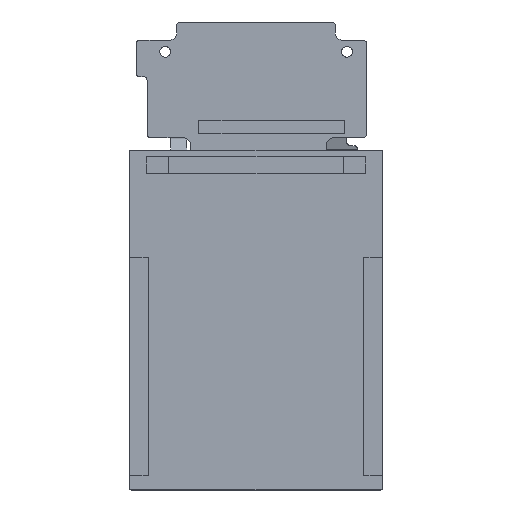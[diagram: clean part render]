
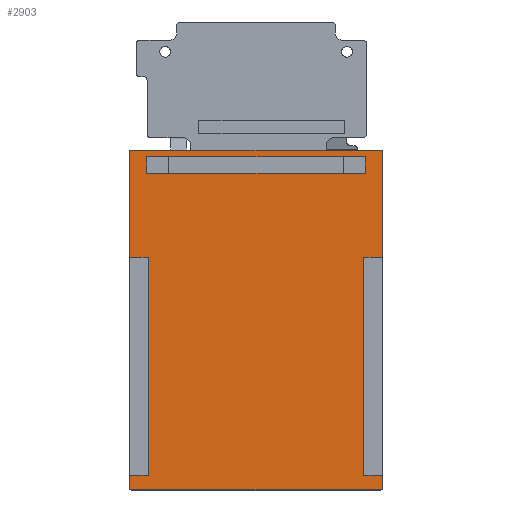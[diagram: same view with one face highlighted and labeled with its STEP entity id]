
A CAD part, front view. The second image highlights one B-rep face of the part: STEP entity #2903.
In plain terms, the highlighted planar face has unit normal (0, -1, 0).
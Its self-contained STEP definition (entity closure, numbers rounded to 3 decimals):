
#97 = CARTESIAN_POINT ( 'NONE',  ( 0., 0., 0. ) ) ;
#151 = CARTESIAN_POINT ( 'NONE',  ( 0., 0., -3.2 ) ) ;
#198 = EDGE_CURVE ( 'NONE', #3678, #1502, #705, .T. ) ;
#261 = VECTOR ( 'NONE', #328, 1000. ) ;
#280 = VECTOR ( 'NONE', #3606, 1000. ) ;
#290 = ORIENTED_EDGE ( 'NONE', *, *, #3371, .F. ) ;
#298 = VECTOR ( 'NONE', #2325, 1000. ) ;
#318 = CARTESIAN_POINT ( 'NONE',  ( 0., 0., -14.75 ) ) ;
#321 = LINE ( 'NONE', #2762, #1769 ) ;
#328 = DIRECTION ( 'NONE',  ( 0., 0., 1. ) ) ;
#365 = DIRECTION ( 'NONE',  ( 0., 0., -1. ) ) ;
#367 = VECTOR ( 'NONE', #3455, 1000. ) ;
#420 = CARTESIAN_POINT ( 'NONE',  ( 34.7, 0., -44.75 ) ) ;
#474 = CARTESIAN_POINT ( 'NONE',  ( 34.7, 0., 0. ) ) ;
#505 = VERTEX_POINT ( 'NONE', #2191 ) ;
#510 = VERTEX_POINT ( 'NONE', #1879 ) ;
#540 = LINE ( 'NONE', #3176, #2185 ) ;
#583 = FACE_OUTER_BOUND ( 'NONE', #2053, .T. ) ;
#586 = LINE ( 'NONE', #474, #2230 ) ;
#598 = ORIENTED_EDGE ( 'NONE', *, *, #1374, .F. ) ;
#608 = LINE ( 'NONE', #151, #2166 ) ;
#693 = EDGE_CURVE ( 'NONE', #3399, #1044, #608, .T. ) ;
#696 = DIRECTION ( 'NONE',  ( 0., 1., 0. ) ) ;
#698 = VERTEX_POINT ( 'NONE', #1677 ) ;
#705 = LINE ( 'NONE', #2510, #3184 ) ;
#715 = VECTOR ( 'NONE', #1219, 1000. ) ;
#726 = LINE ( 'NONE', #2103, #1559 ) ;
#815 = CARTESIAN_POINT ( 'NONE',  ( 0., 0., 0. ) ) ;
#953 = ORIENTED_EDGE ( 'NONE', *, *, #3952, .F. ) ;
#956 = DIRECTION ( 'NONE',  ( -1., 0., 0. ) ) ;
#957 = ORIENTED_EDGE ( 'NONE', *, *, #1064, .F. ) ;
#970 = VERTEX_POINT ( 'NONE', #2907 ) ;
#1044 = VERTEX_POINT ( 'NONE', #1385 ) ;
#1064 = EDGE_CURVE ( 'NONE', #1598, #3399, #2611, .T. ) ;
#1102 = CARTESIAN_POINT ( 'NONE',  ( 0., 0., -44.75 ) ) ;
#1109 = LINE ( 'NONE', #3564, #298 ) ;
#1126 = CARTESIAN_POINT ( 'NONE',  ( 0., 0., -0.9 ) ) ;
#1160 = CARTESIAN_POINT ( 'NONE',  ( 0., 0., -46.75 ) ) ;
#1186 = DIRECTION ( 'NONE',  ( 0., 0., -1. ) ) ;
#1219 = DIRECTION ( 'NONE',  ( 0., 0., 1. ) ) ;
#1220 = ORIENTED_EDGE ( 'NONE', *, *, #3850, .F. ) ;
#1264 = EDGE_CURVE ( 'NONE', #2173, #1598, #2653, .T. ) ;
#1319 = DIRECTION ( 'NONE',  ( 1., 0., 0. ) ) ;
#1325 = VECTOR ( 'NONE', #1469, 1000. ) ;
#1374 = EDGE_CURVE ( 'NONE', #510, #3678, #3914, .T. ) ;
#1385 = CARTESIAN_POINT ( 'NONE',  ( 32.37, 0., -3.2 ) ) ;
#1388 = ORIENTED_EDGE ( 'NONE', *, *, #198, .F. ) ;
#1392 = ORIENTED_EDGE ( 'NONE', *, *, #1264, .F. ) ;
#1415 = DIRECTION ( 'NONE',  ( 1., 0., 0. ) ) ;
#1434 = VECTOR ( 'NONE', #1797, 1000. ) ;
#1469 = DIRECTION ( 'NONE',  ( -1., 0., 0. ) ) ;
#1495 = CARTESIAN_POINT ( 'NONE',  ( 32.37, 0., -0.9 ) ) ;
#1502 = VERTEX_POINT ( 'NONE', #318 ) ;
#1527 = ORIENTED_EDGE ( 'NONE', *, *, #693, .F. ) ;
#1559 = VECTOR ( 'NONE', #1186, 1000. ) ;
#1579 = CARTESIAN_POINT ( 'NONE',  ( 0., 0., -44.75 ) ) ;
#1583 = VERTEX_POINT ( 'NONE', #1579 ) ;
#1587 = ORIENTED_EDGE ( 'NONE', *, *, #2254, .F. ) ;
#1598 = VERTEX_POINT ( 'NONE', #2507 ) ;
#1656 = EDGE_CURVE ( 'NONE', #698, #2019, #2299, .T. ) ;
#1673 = VECTOR ( 'NONE', #3252, 1000. ) ;
#1677 = CARTESIAN_POINT ( 'NONE',  ( 32.2, 0., -44.75 ) ) ;
#1711 = CARTESIAN_POINT ( 'NONE',  ( 2.33, 0., -3.2 ) ) ;
#1742 = EDGE_CURVE ( 'NONE', #2791, #3861, #2977, .T. ) ;
#1769 = VECTOR ( 'NONE', #3385, 1000. ) ;
#1797 = DIRECTION ( 'NONE',  ( 0., 0., 1. ) ) ;
#1842 = EDGE_CURVE ( 'NONE', #1044, #2173, #321, .T. ) ;
#1879 = CARTESIAN_POINT ( 'NONE',  ( 2.5, 0., -44.75 ) ) ;
#1894 = LINE ( 'NONE', #2161, #261 ) ;
#1903 = CARTESIAN_POINT ( 'NONE',  ( 34.7, 0., -46.75 ) ) ;
#1929 = ORIENTED_EDGE ( 'NONE', *, *, #2315, .F. ) ;
#2019 = VERTEX_POINT ( 'NONE', #420 ) ;
#2053 = EDGE_LOOP ( 'NONE', ( #2160, #3667, #1220, #2404, #3058, #290, #2206, #1929, #953, #1388, #598, #1587 ) ) ;
#2103 = CARTESIAN_POINT ( 'NONE',  ( 34.7, 0., 0. ) ) ;
#2132 = FACE_BOUND ( 'NONE', #3917, .T. ) ;
#2160 = ORIENTED_EDGE ( 'NONE', *, *, #3044, .F. ) ;
#2161 = CARTESIAN_POINT ( 'NONE',  ( 0., 0., 0. ) ) ;
#2166 = VECTOR ( 'NONE', #3233, 1000. ) ;
#2173 = VERTEX_POINT ( 'NONE', #1495 ) ;
#2185 = VECTOR ( 'NONE', #1319, 1000. ) ;
#2191 = CARTESIAN_POINT ( 'NONE',  ( 34.7, 0., 0. ) ) ;
#2206 = ORIENTED_EDGE ( 'NONE', *, *, #2443, .F. ) ;
#2215 = CARTESIAN_POINT ( 'NONE',  ( 32.2, 0., 0. ) ) ;
#2230 = VECTOR ( 'NONE', #2331, 1000. ) ;
#2254 = EDGE_CURVE ( 'NONE', #1583, #510, #3760, .T. ) ;
#2299 = LINE ( 'NONE', #1102, #3372 ) ;
#2309 = ORIENTED_EDGE ( 'NONE', *, *, #1842, .F. ) ;
#2315 = EDGE_CURVE ( 'NONE', #3711, #505, #540, .T. ) ;
#2325 = DIRECTION ( 'NONE',  ( -1., 0., 0. ) ) ;
#2331 = DIRECTION ( 'NONE',  ( 0., 0., -1. ) ) ;
#2378 = LINE ( 'NONE', #2767, #715 ) ;
#2404 = ORIENTED_EDGE ( 'NONE', *, *, #1656, .F. ) ;
#2438 = AXIS2_PLACEMENT_3D ( 'NONE', #97, #696, #2870 ) ;
#2443 = EDGE_CURVE ( 'NONE', #505, #970, #586, .T. ) ;
#2507 = CARTESIAN_POINT ( 'NONE',  ( 2.33, 0., -0.9 ) ) ;
#2510 = CARTESIAN_POINT ( 'NONE',  ( 0., 0., -14.75 ) ) ;
#2611 = LINE ( 'NONE', #3576, #1673 ) ;
#2626 = VECTOR ( 'NONE', #365, 1000. ) ;
#2653 = LINE ( 'NONE', #1126, #280 ) ;
#2762 = CARTESIAN_POINT ( 'NONE',  ( 32.37, 0., 0. ) ) ;
#2767 = CARTESIAN_POINT ( 'NONE',  ( 0., 0., 0. ) ) ;
#2791 = VERTEX_POINT ( 'NONE', #1903 ) ;
#2824 = CARTESIAN_POINT ( 'NONE',  ( 0., 0., -44.75 ) ) ;
#2870 = DIRECTION ( 'NONE',  ( 0., 0., 1. ) ) ;
#2903 = ADVANCED_FACE ( 'NONE', ( #2132, #583 ), #3800, .F. ) ;
#2907 = CARTESIAN_POINT ( 'NONE',  ( 34.7, 0., -14.75 ) ) ;
#2977 = LINE ( 'NONE', #1160, #1325 ) ;
#3044 = EDGE_CURVE ( 'NONE', #3861, #1583, #2378, .T. ) ;
#3058 = ORIENTED_EDGE ( 'NONE', *, *, #3209, .F. ) ;
#3176 = CARTESIAN_POINT ( 'NONE',  ( 0., 0., 0. ) ) ;
#3184 = VECTOR ( 'NONE', #956, 1000. ) ;
#3209 = EDGE_CURVE ( 'NONE', #3836, #698, #3545, .T. ) ;
#3233 = DIRECTION ( 'NONE',  ( 1., 0., 0. ) ) ;
#3252 = DIRECTION ( 'NONE',  ( 0., 0., -1. ) ) ;
#3347 = CARTESIAN_POINT ( 'NONE',  ( 32.2, 0., -14.75 ) ) ;
#3371 = EDGE_CURVE ( 'NONE', #970, #3836, #1109, .T. ) ;
#3372 = VECTOR ( 'NONE', #1415, 1000. ) ;
#3385 = DIRECTION ( 'NONE',  ( 0., 0., 1. ) ) ;
#3399 = VERTEX_POINT ( 'NONE', #1711 ) ;
#3455 = DIRECTION ( 'NONE',  ( 1., 0., 0. ) ) ;
#3545 = LINE ( 'NONE', #2215, #2626 ) ;
#3564 = CARTESIAN_POINT ( 'NONE',  ( 0., 0., -14.75 ) ) ;
#3576 = CARTESIAN_POINT ( 'NONE',  ( 2.33, 0., 0. ) ) ;
#3606 = DIRECTION ( 'NONE',  ( -1., 0., 0. ) ) ;
#3667 = ORIENTED_EDGE ( 'NONE', *, *, #1742, .F. ) ;
#3678 = VERTEX_POINT ( 'NONE', #3920 ) ;
#3711 = VERTEX_POINT ( 'NONE', #815 ) ;
#3760 = LINE ( 'NONE', #2824, #367 ) ;
#3800 = PLANE ( 'NONE',  #2438 ) ;
#3836 = VERTEX_POINT ( 'NONE', #3347 ) ;
#3850 = EDGE_CURVE ( 'NONE', #2019, #2791, #726, .T. ) ;
#3861 = VERTEX_POINT ( 'NONE', #3996 ) ;
#3914 = LINE ( 'NONE', #3969, #1434 ) ;
#3917 = EDGE_LOOP ( 'NONE', ( #2309, #1527, #957, #1392 ) ) ;
#3920 = CARTESIAN_POINT ( 'NONE',  ( 2.5, 0., -14.75 ) ) ;
#3952 = EDGE_CURVE ( 'NONE', #1502, #3711, #1894, .T. ) ;
#3969 = CARTESIAN_POINT ( 'NONE',  ( 2.5, 0., 0. ) ) ;
#3996 = CARTESIAN_POINT ( 'NONE',  ( 0., 0., -46.75 ) ) ;
